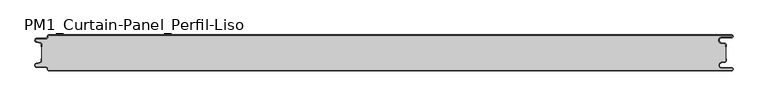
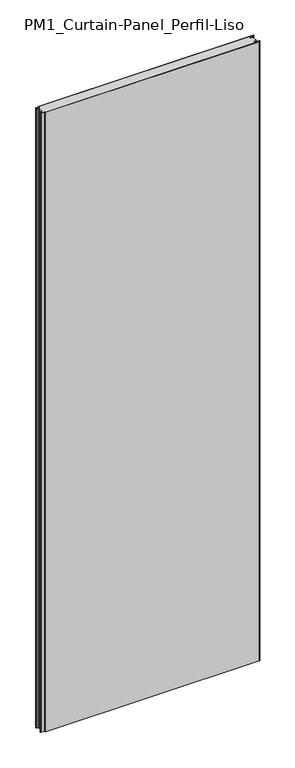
"""IFC4 building model written with IfcOpenShell, lengths in millimetres: plate geometry, PM1_Curtain-Panel_Perfil-Liso : ACH_PM1_Panel-Acústico-Sectorización_60M."""

from ifc_helpers import new_model, si_unit, point, frame, frame_2d, origin, origin_with_axes, place, context, project, spatial, polyline, circle_curve, trimmed, segment, composite_curve, outline, extrude, source, transform, mapped, element, save
from ifc_brep_helpers import plane_surface, cylinder_surface, revolved_surface, advanced_brep


def pm1_curtain_panel_perfil_liso_ec2d9a9f(model_context):
    return source(origin(), model_context, "Body", "SolidModel", [
        advanced_brep(
        [(583.1, 0.0, 3500.0), (-562.4, 0.0, 3500.0), (-564.4, -2.0, 3500.0), (-564.4, -3.4, 3500.0), (-566.4, -5.4, 3500.0), (-581.9, -5.4, 3500.0), (-582.7098239, -12.5077322, 3500.0), (-576.5500979, -13.929817, 3500.0), (-575.0, -15.878557, 3500.0), (-575.0, -20.0, 3500.0), (-574.2, -20.0, 3500.0), (-574.2, -15.878557, 3500.0), (-576.370137, -13.1503208, 3500.0), (-582.529863, -11.728236, 3500.0), (-581.9, -6.2, 3500.0), (-566.4, -6.2, 3500.0), (-563.6, -3.4, 3500.0), (-563.6, -2.0, 3500.0), (-562.4, -0.8, 3500.0), (583.1, -0.8, 3500.0), (583.1, -4.2, 3500.0), (566.1, -4.2, 3500.0), (565.266489, -13.7270773, 3500.0), (571.7125666, -14.8636942, 3500.0), (573.2, -16.636348, 3500.0), (573.2, -20.0, 3500.0), (574.0, -20.0, 3500.0), (574.0, -16.636348, 3500.0), (571.8514851, -14.0758478, 3500.0), (565.4054075, -12.9392309, 3500.0), (566.1, -5.0, 3500.0), (583.1, -5.0, 3500.0), (585.6, -2.5, 3500.0), (-562.4, 0.0, 0.0), (583.1, 0.0, 0.0), (585.6, -2.5, 0.0), (583.1, -5.0, 0.0), (566.1, -5.0, 0.0), (565.4054075, -12.939231, 0.0), (571.8514851, -14.075848, 0.0), (574.0, -16.636348, 0.0), (574.0, -20.0, 0.0), (573.2, -20.0, 0.0), (573.2, -16.636348, 0.0), (571.7125666, -14.863694, 0.0), (565.266489, -13.7270771, 0.0), (566.1, -4.2, 0.0), (583.1, -4.2, 0.0), (583.1, -0.8, 0.0), (-562.4, -0.8, 0.0), (-563.6, -2.0, 0.0), (-563.6, -3.4, 0.0), (-566.4, -6.2, 0.0), (-581.9, -6.2, 0.0), (-582.529863, -11.7282362, 0.0), (-576.370137, -13.150321, 0.0), (-574.2, -15.878557, 0.0), (-574.2, -20.0, 0.0), (-575.0, -20.0, 0.0), (-575.0, -15.878557, 0.0), (-576.5500978, -13.9298169, 0.0), (-582.7098239, -12.507732, 0.0), (-581.9, -5.4, 0.0), (-566.4, -5.4, 0.0), (-564.4, -3.4, 0.0), (-564.4, -2.0, 0.0)],
        [
            (0, 1),
            (1, 2, circle_curve(frame((-562.4, -2.0, 3500.0), z_axis=(0.0, 0.0, 1.0), x_axis=(1.0, 0.0, 0.0)), 2.0)),
            (2, 3),
            (3, 4, circle_curve(frame((-566.4, -3.4, 3500.0), z_axis=(0.0, 0.0, -1.0), x_axis=(1.0, 0.0, 0.0)), 2.0)),
            (4, 5),
            (5, 6, circle_curve(frame((-581.9, -9.0, 3500.0), z_axis=(0.0, 0.0, 1.0), x_axis=(1.0, 0.0, 0.0)), 3.6)),
            (6, 7),
            (7, 8, circle_curve(frame((-577.0, -15.878557, 3500.0), z_axis=(0.0, 0.0, -1.0), x_axis=(1.0, 0.0, 0.0)), 2.0)),
            (8, 9),
            (9, 10),
            (10, 11),
            (11, 12, circle_curve(frame((-577.0, -15.878557, 3500.0), z_axis=(0.0, 0.0, 1.0), x_axis=(1.0, 0.0, 0.0)), 2.8)),
            (12, 13),
            (13, 14, circle_curve(frame((-581.9, -9.0, 3500.0), z_axis=(0.0, 0.0, -1.0), x_axis=(1.0, 0.0, 0.0)), 2.8)),
            (14, 15),
            (15, 16, circle_curve(frame((-566.4, -3.4, 3500.0), z_axis=(0.0, 0.0, 1.0), x_axis=(1.0, 0.0, 0.0)), 2.8)),
            (16, 17),
            (17, 18, circle_curve(frame((-562.4, -2.0, 3500.0), z_axis=(0.0, 0.0, -1.0), x_axis=(1.0, 0.0, 0.0)), 1.2)),
            (18, 19),
            (19, 20, circle_curve(frame((583.1, -2.5, 3500.0), z_axis=(0.0, 0.0, -1.0), x_axis=(1.0, 0.0, 0.0)), 1.7)),
            (20, 21),
            (21, 22, circle_curve(frame((566.1, -9.0, 3500.0), z_axis=(0.0, 0.0, 1.0), x_axis=(1.0, 0.0, 0.0)), 4.8)),
            (22, 23),
            (23, 24, circle_curve(frame((571.4, -16.636348, 3500.0), z_axis=(0.0, 0.0, -1.0), x_axis=(1.0, 0.0, 0.0)), 1.8)),
            (24, 25),
            (25, 26),
            (26, 27),
            (27, 28, circle_curve(frame((571.4, -16.636348, 3500.0), z_axis=(0.0, 0.0, 1.0), x_axis=(1.0, 0.0, 0.0)), 2.6)),
            (28, 29),
            (29, 30, circle_curve(frame((566.1, -9.0, 3500.0), z_axis=(0.0, 0.0, -1.0), x_axis=(1.0, 0.0, 0.0)), 4.0)),
            (30, 31),
            (31, 32, circle_curve(frame((583.1, -2.5, 3500.0), z_axis=(0.0, 0.0, 1.0), x_axis=(1.0, 0.0, 0.0)), 2.5)),
            (32, 0, circle_curve(frame((583.1, -2.5, 3500.0), z_axis=(0.0, 0.0, 1.0), x_axis=(1.0, 0.0, 0.0)), 2.5)),
            (33, 34),
            (34, 35, circle_curve(frame((583.1, -2.5, 0.0), z_axis=(0.0, 0.0, -1.0), x_axis=(1.0, 0.0, 0.0)), 2.5)),
            (35, 36, circle_curve(frame((583.1, -2.5, 0.0), z_axis=(0.0, 0.0, -1.0), x_axis=(1.0, 0.0, 0.0)), 2.5)),
            (36, 37),
            (37, 38, circle_curve(frame((566.1, -9.0, 0.0), z_axis=(0.0, 0.0, 1.0), x_axis=(1.0, 0.0, 0.0)), 4.0)),
            (38, 39),
            (39, 40, circle_curve(frame((571.4, -16.636348, 0.0), z_axis=(0.0, 0.0, -1.0), x_axis=(1.0, 0.0, 0.0)), 2.6)),
            (40, 41),
            (41, 42),
            (42, 43),
            (43, 44, circle_curve(frame((571.4, -16.636348, 0.0), z_axis=(0.0, 0.0, 1.0), x_axis=(1.0, 0.0, 0.0)), 1.8)),
            (44, 45),
            (45, 46, circle_curve(frame((566.1, -9.0, 0.0), z_axis=(0.0, 0.0, -1.0), x_axis=(1.0, 0.0, 0.0)), 4.8)),
            (46, 47),
            (47, 48, circle_curve(frame((583.1, -2.5, 0.0), z_axis=(0.0, 0.0, 1.0), x_axis=(1.0, 0.0, 0.0)), 1.7)),
            (48, 49),
            (49, 50, circle_curve(frame((-562.4, -2.0, 0.0), z_axis=(0.0, 0.0, 1.0), x_axis=(1.0, 0.0, 0.0)), 1.2)),
            (50, 51),
            (51, 52, circle_curve(frame((-566.4, -3.4, 0.0), z_axis=(0.0, 0.0, -1.0), x_axis=(1.0, 0.0, 0.0)), 2.8)),
            (52, 53),
            (53, 54, circle_curve(frame((-581.9, -9.0, 0.0), z_axis=(0.0, 0.0, 1.0), x_axis=(1.0, 0.0, 0.0)), 2.8)),
            (54, 55),
            (55, 56, circle_curve(frame((-577.0, -15.878557, 0.0), z_axis=(0.0, 0.0, -1.0), x_axis=(1.0, 0.0, 0.0)), 2.8)),
            (56, 57),
            (57, 58),
            (58, 59),
            (59, 60, circle_curve(frame((-577.0, -15.878557, 0.0), z_axis=(0.0, 0.0, 1.0), x_axis=(1.0, 0.0, 0.0)), 2.0)),
            (60, 61),
            (61, 62, circle_curve(frame((-581.9, -9.0, 0.0), z_axis=(0.0, 0.0, -1.0), x_axis=(1.0, 0.0, 0.0)), 3.6)),
            (62, 63),
            (63, 64, circle_curve(frame((-566.4, -3.4, 0.0), z_axis=(0.0, 0.0, 1.0), x_axis=(1.0, 0.0, 0.0)), 2.0)),
            (64, 65),
            (65, 33, circle_curve(frame((-562.4, -2.0, 0.0), z_axis=(0.0, 0.0, -1.0), x_axis=(1.0, 0.0, 0.0)), 2.0)),
            (1, 33),
            (65, 2),
            (64, 3),
            (63, 4),
            (62, 5),
            (61, 6),
            (60, 7),
            (59, 8),
            (58, 9),
            (57, 10),
            (56, 11),
            (55, 12),
            (54, 13),
            (53, 14),
            (52, 15),
            (51, 16),
            (50, 17),
            (49, 18),
            (48, 19),
            (47, 20),
            (46, 21),
            (45, 22),
            (44, 23),
            (43, 24),
            (42, 25),
            (41, 26),
            (40, 27),
            (39, 28),
            (38, 29),
            (37, 30),
            (36, 31),
            (34, 0),
        ],
        [
            plane_surface(frame((-575.0, 0.0, 3500.0), z_axis=(0.0, 0.0, 1.0), x_axis=(0.0, 1.0, 0.0))),
            plane_surface(frame((-575.0, 0.0, 0.0), z_axis=(0.0, 0.0, -1.0), x_axis=(0.0, 1.0, 0.0))),
            cylinder_surface(frame((-562.4, -2.0, 3500.0), z_axis=(0.0, 0.0, 1.0), x_axis=(1.0, 0.0, 0.0)), 2.0),
            plane_surface(frame((-564.4, -2.0, 3500.0), z_axis=(-1.0, 0.0, 0.0), x_axis=(0.0, 0.0, -1.0))),
            revolved_surface(polyline([(-564.4, -3.4, 0.0), (-564.4, -3.4, 3500.0)]), (-566.4, -3.4, 3500.0), (0.0, 0.0, -1.0)),
            plane_surface(frame((-566.4, -5.4, 3500.0), z_axis=(0.0, 1.0, 0.0), x_axis=(0.0, 0.0, -1.0))),
            cylinder_surface(frame((-581.9, -9.0, 3500.0), z_axis=(0.0, 0.0, 1.0), x_axis=(1.0, 0.0, 0.0)), 3.6),
            plane_surface(frame((-582.7098239, -12.507732, 3500.0), z_axis=(-0.2249510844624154, -0.9743700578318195, 0.0), x_axis=(0.0, 0.0, -1.0))),
            revolved_surface(polyline([(-575.0, -15.878557, 0.0), (-575.0, -15.878557, 3500.0)]), (-577.0, -15.878557, 3500.0), (0.0, 0.0, -1.0)),
            plane_surface(frame((-575.0, -15.878557, 3500.0), z_axis=(-1.0, 0.0, 0.0), x_axis=(0.0, 0.0, -1.0))),
            plane_surface(frame((-575.0, -20.0, 3500.0), z_axis=(0.0, -1.0, 0.0), x_axis=(0.0, 0.0, -1.0))),
            plane_surface(frame((-574.2, -20.0, 3500.0), z_axis=(1.0, 0.0, 0.0), x_axis=(0.0, 0.0, -1.0))),
            cylinder_surface(frame((-577.0, -15.878557, 3500.0), z_axis=(0.0, 0.0, 1.0), x_axis=(1.0, 0.0, 0.0)), 2.8),
            plane_surface(frame((-576.370137, -13.150321, 3500.0), z_axis=(0.22495108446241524, 0.9743700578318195, 0.0), x_axis=(0.0, 0.0, -1.0))),
            revolved_surface(polyline([(-579.1, -9.0, 0.0), (-579.1, -9.0, 3500.0)]), (-581.9, -9.0, 3500.0), (0.0, 0.0, -1.0)),
            plane_surface(frame((-581.9, -6.2, 3500.0), z_axis=(0.0, -1.0, 0.0), x_axis=(0.0, 0.0, -1.0))),
            cylinder_surface(frame((-566.4, -3.4, 3500.0), z_axis=(0.0, 0.0, 1.0), x_axis=(1.0, 0.0, 0.0)), 2.8),
            plane_surface(frame((-563.6, -3.4, 3500.0), z_axis=(1.0, 0.0, 0.0), x_axis=(0.0, 0.0, -1.0))),
            revolved_surface(polyline([(-561.1999999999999, -2.0, 0.0), (-561.1999999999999, -2.0, 3500.0)]), (-562.4, -2.0, 3500.0), (0.0, 0.0, -1.0)),
            plane_surface(frame((560.890897, -0.8, 3500.0), z_axis=(0.0, -1.0, 0.0), x_axis=(0.0, 0.0, -1.0))),
            revolved_surface(polyline([(584.8000000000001, -2.5, 0.0), (584.8000000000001, -2.5, 3500.0)]), (583.1, -2.5, 3500.0), (0.0, 0.0, -1.0)),
            plane_surface(frame((583.1, -4.2, 3500.0), z_axis=(0.0, 1.0, 0.0), x_axis=(0.0, 0.0, -1.0))),
            cylinder_surface(frame((566.1, -9.0, 3500.0), z_axis=(0.0, 0.0, 1.0), x_axis=(1.0, 0.0, 0.0)), 4.8),
            plane_surface(frame((565.266489, -13.7270771, 3500.0), z_axis=(-0.1736481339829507, -0.9848077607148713, 0.0), x_axis=(0.0, 0.0, -1.0))),
            revolved_surface(polyline([(573.1999999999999, -16.636348, 0.0), (573.1999999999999, -16.636348, 3500.0)]), (571.4, -16.636348, 3500.0), (0.0, 0.0, -1.0)),
            plane_surface(frame((573.2, -16.636348, 3500.0), z_axis=(-1.0, 0.0, 0.0), x_axis=(0.0, 0.0, -1.0))),
            plane_surface(frame((573.2, -20.0, 3500.0), z_axis=(0.0, -1.0, 0.0), x_axis=(0.0, 0.0, -1.0))),
            plane_surface(frame((574.0, -20.0, 3500.0), z_axis=(1.0, 0.0, 0.0), x_axis=(0.0, 0.0, -1.0))),
            cylinder_surface(frame((571.4, -16.636348, 3500.0), z_axis=(0.0, 0.0, 1.0), x_axis=(1.0, 0.0, 0.0)), 2.6),
            plane_surface(frame((571.8514851, -14.075848, 3500.0), z_axis=(0.17364813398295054, 0.9848077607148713, 0.0), x_axis=(0.0, 0.0, -1.0))),
            revolved_surface(polyline([(570.1, -9.0, 0.0), (570.1, -9.0, 3500.0)]), (566.1, -9.0, 3500.0), (0.0, 0.0, -1.0)),
            plane_surface(frame((566.1, -5.0, 3500.0), z_axis=(0.0, -1.0, 0.0), x_axis=(0.0, 0.0, -1.0))),
            cylinder_surface(frame((583.1, -2.5, 3500.0), z_axis=(0.0, 0.0, 1.0), x_axis=(1.0, 0.0, 0.0)), 2.5),
            plane_surface(frame((510.5961529, 0.0, 3500.0), z_axis=(0.0, 1.0, 0.0), x_axis=(0.0, 0.0, -1.0))),
        ],
        [
            (0, [[1, 2, 3, 4, 5, 6, 7, 8, 9, 10, 11, 12, 13, 14, 15, 16, 17, 18, 19, 20, 21, 22, 23, 24, 25, 26, 27, 28, 29, 30, 31, 32, 33]]),
            (1, [[34, 35, 36, 37, 38, 39, 40, 41, 42, 43, 44, 45, 46, 47, 48, 49, 50, 51, 52, 53, 54, 55, 56, 57, 58, 59, 60, 61, 62, 63, 64, 65, 66]]),
            (2, [[-2, 67, -66, 68]]),
            (3, [[-3, -68, -65, 69]]),
            (4, [[-4, -69, -64, 70]]),
            (5, [[-5, -70, -63, 71]]),
            (6, [[-6, -71, -62, 72]]),
            (7, [[-7, -72, -61, 73]]),
            (8, [[-8, -73, -60, 74]]),
            (9, [[-9, -74, -59, 75]]),
            (10, [[-10, -75, -58, 76]]),
            (11, [[-11, -76, -57, 77]]),
            (12, [[-12, -77, -56, 78]]),
            (13, [[-13, -78, -55, 79]]),
            (14, [[-14, -79, -54, 80]]),
            (15, [[-15, -80, -53, 81]]),
            (16, [[-16, -81, -52, 82]]),
            (17, [[-17, -82, -51, 83]]),
            (18, [[-18, -83, -50, 84]]),
            (19, [[-19, -84, -49, 85]]),
            (20, [[-20, -85, -48, 86]]),
            (21, [[-21, -86, -47, 87]]),
            (22, [[-22, -87, -46, 88]]),
            (23, [[-23, -88, -45, 89]]),
            (24, [[-24, -89, -44, 90]]),
            (25, [[-25, -90, -43, 91]]),
            (26, [[-26, -91, -42, 92]]),
            (27, [[-27, -92, -41, 93]]),
            (28, [[-28, -93, -40, 94]]),
            (29, [[-29, -94, -39, 95]]),
            (30, [[-30, -95, -38, 96]]),
            (31, [[-31, -96, -37, 97]]),
            (32, [[-97, -36, -35, 98, -33, -32]]),
            (33, [[-1, -98, -34, -67]]),
        ],
    ),
        extrude(outline(composite_curve([segment(polyline([(-574.2, -44.1214426), (-574.2, -15.8785573)]), True, "CONTINUOUS"), segment(trimmed(circle_curve(frame_2d((-577.0, -15.8785573)), 2.8), [point((-574.2, -15.8785573))], [point((-576.370137, -13.1503212))], True, "CARTESIAN"), True, "CONTINUOUS"), segment(polyline([(-576.370137, -13.1503212), (-582.5298631, -11.7282362)]), True, "CONTINUOUS"), segment(trimmed(circle_curve(frame_2d((-581.9, -9.0)), 2.8), [point((-582.5298631, -11.7282362))], [point((-581.9, -6.2))], False, "CARTESIAN"), True, "CONTINUOUS"), segment(polyline([(-581.9, -6.2), (-566.4000001, -6.2)]), True, "CONTINUOUS"), segment(trimmed(circle_curve(frame_2d((-566.4000001, -3.4)), 2.8), [point((-566.4000001, -6.2))], [point((-563.6000001, -3.4))], True, "CARTESIAN"), True, "CONTINUOUS"), segment(polyline([(-563.6000001, -3.4), (-563.6000001, -2.0)]), True, "CONTINUOUS"), segment(trimmed(circle_curve(frame_2d((-562.4000001, -2.0)), 1.2), [point((-563.6000001, -2.0))], [point((-562.4000001, -0.8))], False, "CARTESIAN"), True, "CONTINUOUS"), segment(polyline([(-562.4000001, -0.8), (583.1, -0.8)]), True, "CONTINUOUS"), segment(trimmed(circle_curve(frame_2d((583.1, -2.5)), 1.7), [point((583.1, -0.8))], [point((583.1, -4.2))], False, "CARTESIAN"), True, "CONTINUOUS"), segment(polyline([(583.1, -4.2), (566.1, -4.2)]), True, "CONTINUOUS"), segment(trimmed(circle_curve(frame_2d((566.1, -9.0)), 4.8), [point((566.1, -4.2))], [point((565.2664883, -13.7270771))], True, "CARTESIAN"), True, "CONTINUOUS"), segment(polyline([(565.2664883, -13.7270771), (571.7125668, -14.8636953)]), True, "CONTINUOUS"), segment(trimmed(circle_curve(frame_2d((571.4, -16.6363492)), 1.8), [point((571.7125668, -14.8636953))], [point((573.2, -16.6363492))], False, "CARTESIAN"), True, "CONTINUOUS"), segment(polyline([(573.2, -16.6363492), (573.2, -43.3636508)]), True, "CONTINUOUS"), segment(trimmed(circle_curve(frame_2d((571.4, -43.3636508)), 1.8), [point((573.2, -43.3636508))], [point((571.7125668, -45.1363047))], False, "CARTESIAN"), True, "CONTINUOUS"), segment(polyline([(571.7125668, -45.1363047), (565.2664883, -46.2729229)]), True, "CONTINUOUS"), segment(trimmed(circle_curve(frame_2d((566.1, -51.0)), 4.8), [point((565.2664883, -46.2729229))], [point((566.1, -55.8))], True, "CARTESIAN"), True, "CONTINUOUS"), segment(polyline([(566.1, -55.8), (583.1, -55.8)]), True, "CONTINUOUS"), segment(trimmed(circle_curve(frame_2d((583.1, -57.5)), 1.7), [point((583.1, -55.8))], [point((583.1, -59.2))], False, "CARTESIAN"), True, "CONTINUOUS"), segment(polyline([(583.1, -59.2), (-562.4000001, -59.2)]), True, "CONTINUOUS"), segment(trimmed(circle_curve(frame_2d((-562.4000001, -58.0)), 1.2), [point((-562.4000001, -59.2))], [point((-563.6000001, -58.0))], False, "CARTESIAN"), True, "CONTINUOUS"), segment(polyline([(-563.6000001, -58.0), (-563.6000001, -56.6)]), True, "CONTINUOUS"), segment(trimmed(circle_curve(frame_2d((-566.4000001, -56.6)), 2.8), [point((-563.6000001, -56.6))], [point((-566.4000001, -53.8))], True, "CARTESIAN"), True, "CONTINUOUS"), segment(polyline([(-566.4000001, -53.8), (-581.9, -53.8)]), True, "CONTINUOUS"), segment(trimmed(circle_curve(frame_2d((-581.9, -51.0)), 2.8), [point((-581.9, -53.8))], [point((-582.5298631, -48.2717638))], False, "CARTESIAN"), True, "CONTINUOUS"), segment(polyline([(-582.5298631, -48.2717638), (-576.370137, -46.8496788)]), True, "CONTINUOUS"), segment(trimmed(circle_curve(frame_2d((-577.0, -44.1214426)), 2.8), [point((-576.370137, -46.8496788))], [point((-574.2, -44.1214426))], True, "CARTESIAN"), True, "CONTINUOUS")], self_intersect=False)), origin_with_axes(), (0.0, 0.0, 1.0), 3500.0),
        advanced_brep(
        [(-562.4, -60.0, 3500.0), (583.1, -60.0, 3500.0), (585.6, -57.5, 3500.0), (583.1, -55.0, 3500.0), (566.1, -55.0, 3500.0), (565.4054075, -47.060769, 3500.0), (571.8514851, -45.924152, 3500.0), (574.0, -43.363652, 3500.0), (574.0, -40.0, 3500.0), (573.2, -40.0, 3500.0), (573.2, -43.363652, 3500.0), (571.7125666, -45.136306, 3500.0), (565.266489, -46.2729229, 3500.0), (566.1, -55.8, 3500.0), (583.1, -55.8, 3500.0), (583.1, -59.2, 3500.0), (-562.4, -59.2, 3500.0), (-563.6, -58.0, 3500.0), (-563.6, -56.6, 3500.0), (-566.4, -53.8, 3500.0), (-581.9, -53.8, 3500.0), (-582.529863, -48.2717638, 3500.0), (-576.370137, -46.849679, 3500.0), (-574.2, -44.121443, 3500.0), (-574.2, -40.0, 3500.0), (-575.0, -40.0, 3500.0), (-575.0, -44.121443, 3500.0), (-576.5500978, -46.0701831, 3500.0), (-582.7098239, -47.492268, 3500.0), (-581.9, -54.6, 3500.0), (-566.4, -54.6, 3500.0), (-564.4, -56.6, 3500.0), (-564.4, -58.0, 3500.0), (583.1, -60.0, 0.0), (-562.4, -60.0, 0.0), (-564.4, -58.0, 0.0), (-564.4, -56.6, 0.0), (-566.4, -54.6, 0.0), (-581.9, -54.6, 0.0), (-582.7098239, -47.4922678, 0.0), (-576.5500979, -46.070183, 0.0), (-575.0, -44.121443, 0.0), (-575.0, -40.0, 0.0), (-574.2, -40.0, 0.0), (-574.2, -44.121443, 0.0), (-576.370137, -46.8496792, 0.0), (-582.529863, -48.271764, 0.0), (-581.9, -53.8, 0.0), (-566.4, -53.8, 0.0), (-563.6, -56.6, 0.0), (-563.6, -58.0, 0.0), (-562.4, -59.2, 0.0), (583.1, -59.2, 0.0), (583.1, -55.8, 0.0), (566.1, -55.8, 0.0), (565.266489, -46.2729227, 0.0), (571.7125666, -45.1363058, 0.0), (573.2, -43.363652, 0.0), (573.2, -40.0, 0.0), (574.0, -40.0, 0.0), (574.0, -43.363652, 0.0), (571.8514851, -45.9241522, 0.0), (565.4054075, -47.0607691, 0.0), (566.1, -55.0, 0.0), (583.1, -55.0, 0.0), (585.6, -57.5, 0.0)],
        [
            (0, 1),
            (1, 2, circle_curve(frame((583.1, -57.5, 3500.0), z_axis=(0.0, 0.0, 1.0), x_axis=(1.0, 0.0, 0.0)), 2.5)),
            (2, 3, circle_curve(frame((583.1, -57.5, 3500.0), z_axis=(0.0, 0.0, 1.0), x_axis=(1.0, 0.0, 0.0)), 2.5)),
            (3, 4),
            (4, 5, circle_curve(frame((566.1, -51.0, 3500.0), z_axis=(0.0, 0.0, -1.0), x_axis=(1.0, 0.0, 0.0)), 4.0)),
            (5, 6),
            (6, 7, circle_curve(frame((571.4, -43.363652, 3500.0), z_axis=(0.0, 0.0, 1.0), x_axis=(1.0, 0.0, 0.0)), 2.6)),
            (7, 8),
            (8, 9),
            (9, 10),
            (10, 11, circle_curve(frame((571.4, -43.363652, 3500.0), z_axis=(0.0, 0.0, -1.0), x_axis=(1.0, 0.0, 0.0)), 1.8)),
            (11, 12),
            (12, 13, circle_curve(frame((566.1, -51.0, 3500.0), z_axis=(0.0, 0.0, 1.0), x_axis=(1.0, 0.0, 0.0)), 4.8)),
            (13, 14),
            (14, 15, circle_curve(frame((583.1, -57.5, 3500.0), z_axis=(0.0, 0.0, -1.0), x_axis=(1.0, 0.0, 0.0)), 1.7)),
            (15, 16),
            (16, 17, circle_curve(frame((-562.4, -58.0, 3500.0), z_axis=(0.0, 0.0, -1.0), x_axis=(1.0, 0.0, 0.0)), 1.2)),
            (17, 18),
            (18, 19, circle_curve(frame((-566.4, -56.6, 3500.0), z_axis=(0.0, 0.0, 1.0), x_axis=(1.0, 0.0, 0.0)), 2.8)),
            (19, 20),
            (20, 21, circle_curve(frame((-581.9, -51.0, 3500.0), z_axis=(0.0, 0.0, -1.0), x_axis=(1.0, 0.0, 0.0)), 2.8)),
            (21, 22),
            (22, 23, circle_curve(frame((-577.0, -44.121443, 3500.0), z_axis=(0.0, 0.0, 1.0), x_axis=(1.0, 0.0, 0.0)), 2.8)),
            (23, 24),
            (24, 25),
            (25, 26),
            (26, 27, circle_curve(frame((-577.0, -44.121443, 3500.0), z_axis=(0.0, 0.0, -1.0), x_axis=(1.0, 0.0, 0.0)), 2.0)),
            (27, 28),
            (28, 29, circle_curve(frame((-581.9, -51.0, 3500.0), z_axis=(0.0, 0.0, 1.0), x_axis=(1.0, 0.0, 0.0)), 3.6)),
            (29, 30),
            (30, 31, circle_curve(frame((-566.4, -56.6, 3500.0), z_axis=(0.0, 0.0, -1.0), x_axis=(1.0, 0.0, 0.0)), 2.0)),
            (31, 32),
            (32, 0, circle_curve(frame((-562.4, -58.0, 3500.0), z_axis=(0.0, 0.0, 1.0), x_axis=(1.0, 0.0, 0.0)), 2.0)),
            (33, 34),
            (34, 35, circle_curve(frame((-562.4, -58.0, 0.0), z_axis=(0.0, 0.0, -1.0), x_axis=(1.0, 0.0, 0.0)), 2.0)),
            (35, 36),
            (36, 37, circle_curve(frame((-566.4, -56.6, 0.0), z_axis=(0.0, 0.0, 1.0), x_axis=(1.0, 0.0, 0.0)), 2.0)),
            (37, 38),
            (38, 39, circle_curve(frame((-581.9, -51.0, 0.0), z_axis=(0.0, 0.0, -1.0), x_axis=(1.0, 0.0, 0.0)), 3.6)),
            (39, 40),
            (40, 41, circle_curve(frame((-577.0, -44.121443, 0.0), z_axis=(0.0, 0.0, 1.0), x_axis=(1.0, 0.0, 0.0)), 2.0)),
            (41, 42),
            (42, 43),
            (43, 44),
            (44, 45, circle_curve(frame((-577.0, -44.121443, 0.0), z_axis=(0.0, 0.0, -1.0), x_axis=(1.0, 0.0, 0.0)), 2.8)),
            (45, 46),
            (46, 47, circle_curve(frame((-581.9, -51.0, 0.0), z_axis=(0.0, 0.0, 1.0), x_axis=(1.0, 0.0, 0.0)), 2.8)),
            (47, 48),
            (48, 49, circle_curve(frame((-566.4, -56.6, 0.0), z_axis=(0.0, 0.0, -1.0), x_axis=(1.0, 0.0, 0.0)), 2.8)),
            (49, 50),
            (50, 51, circle_curve(frame((-562.4, -58.0, 0.0), z_axis=(0.0, 0.0, 1.0), x_axis=(1.0, 0.0, 0.0)), 1.2)),
            (51, 52),
            (52, 53, circle_curve(frame((583.1, -57.5, 0.0), z_axis=(0.0, 0.0, 1.0), x_axis=(1.0, 0.0, 0.0)), 1.7)),
            (53, 54),
            (54, 55, circle_curve(frame((566.1, -51.0, 0.0), z_axis=(0.0, 0.0, -1.0), x_axis=(1.0, 0.0, 0.0)), 4.8)),
            (55, 56),
            (56, 57, circle_curve(frame((571.4, -43.363652, 0.0), z_axis=(0.0, 0.0, 1.0), x_axis=(1.0, 0.0, 0.0)), 1.8)),
            (57, 58),
            (58, 59),
            (59, 60),
            (60, 61, circle_curve(frame((571.4, -43.363652, 0.0), z_axis=(0.0, 0.0, -1.0), x_axis=(1.0, 0.0, 0.0)), 2.6)),
            (61, 62),
            (62, 63, circle_curve(frame((566.1, -51.0, 0.0), z_axis=(0.0, 0.0, 1.0), x_axis=(1.0, 0.0, 0.0)), 4.0)),
            (63, 64),
            (64, 65, circle_curve(frame((583.1, -57.5, 0.0), z_axis=(0.0, 0.0, -1.0), x_axis=(1.0, 0.0, 0.0)), 2.5)),
            (65, 33, circle_curve(frame((583.1, -57.5, 0.0), z_axis=(0.0, 0.0, -1.0), x_axis=(1.0, 0.0, 0.0)), 2.5)),
            (0, 34),
            (33, 1),
            (64, 3),
            (63, 4),
            (62, 5),
            (61, 6),
            (60, 7),
            (59, 8),
            (58, 9),
            (57, 10),
            (56, 11),
            (55, 12),
            (54, 13),
            (53, 14),
            (52, 15),
            (51, 16),
            (50, 17),
            (49, 18),
            (48, 19),
            (47, 20),
            (46, 21),
            (45, 22),
            (44, 23),
            (43, 24),
            (42, 25),
            (41, 26),
            (40, 27),
            (39, 28),
            (38, 29),
            (37, 30),
            (36, 31),
            (35, 32),
        ],
        [
            plane_surface(frame((-575.0, -60.0, 3500.0), z_axis=(0.0, 0.0, 1.0), x_axis=(0.0, 1.0, 0.0))),
            plane_surface(frame((-575.0, -60.0, 0.0), z_axis=(0.0, 0.0, -1.0), x_axis=(0.0, 1.0, 0.0))),
            plane_surface(frame((560.890897, -60.0, 3500.0), z_axis=(0.0, -1.0, 0.0), x_axis=(0.0, 0.0, -1.0))),
            cylinder_surface(frame((583.1, -57.5, 3500.0), z_axis=(0.0, 0.0, 1.0), x_axis=(1.0, 0.0, 0.0)), 2.5),
            plane_surface(frame((583.1, -55.0, 3500.0), z_axis=(0.0, 1.0, 0.0), x_axis=(0.0, 0.0, -1.0))),
            revolved_surface(polyline([(570.1, -51.0, 0.0), (570.1, -51.0, 3500.0)]), (566.1, -51.0, 3500.0), (0.0, 0.0, -1.0)),
            plane_surface(frame((565.4054075, -47.0607691, 3500.0), z_axis=(0.17364813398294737, -0.9848077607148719, 0.0), x_axis=(0.0, 0.0, -1.0))),
            cylinder_surface(frame((571.4, -43.363652, 3500.0), z_axis=(0.0, 0.0, 1.0), x_axis=(1.0, 0.0, 0.0)), 2.6),
            plane_surface(frame((574.0, -43.363652, 3500.0), z_axis=(1.0, 0.0, 0.0), x_axis=(0.0, 0.0, -1.0))),
            plane_surface(frame((574.0, -40.0, 3500.0), z_axis=(0.0, 1.0, 0.0), x_axis=(0.0, 0.0, -1.0))),
            plane_surface(frame((573.2, -40.0, 3500.0), z_axis=(-1.0, 0.0, 0.0), x_axis=(0.0, 0.0, -1.0))),
            revolved_surface(polyline([(573.1999999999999, -43.363652, 0.0), (573.1999999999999, -43.363652, 3500.0)]), (571.4, -43.363652, 3500.0), (0.0, 0.0, -1.0)),
            plane_surface(frame((571.7125666, -45.1363058, 3500.0), z_axis=(-0.17364813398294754, 0.9848077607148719, 0.0), x_axis=(0.0, 0.0, -1.0))),
            cylinder_surface(frame((566.1, -51.0, 3500.0), z_axis=(0.0, 0.0, 1.0), x_axis=(1.0, 0.0, 0.0)), 4.8),
            plane_surface(frame((566.1, -55.8, 3500.0), z_axis=(0.0, -1.0, 0.0), x_axis=(0.0, 0.0, -1.0))),
            revolved_surface(polyline([(584.8000000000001, -57.5, 0.0), (584.8000000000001, -57.5, 3500.0)]), (583.1, -57.5, 3500.0), (0.0, 0.0, -1.0)),
            plane_surface(frame((510.8105122, -59.2, 3500.0), z_axis=(0.0, 1.0, 0.0), x_axis=(0.0, 0.0, -1.0))),
            revolved_surface(polyline([(-561.1999999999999, -58.0, 0.0), (-561.1999999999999, -58.0, 3500.0)]), (-562.4, -58.0, 3500.0), (0.0, 0.0, -1.0)),
            plane_surface(frame((-563.6, -58.0, 3500.0), z_axis=(1.0, 0.0, 0.0), x_axis=(0.0, 0.0, -1.0))),
            cylinder_surface(frame((-566.4, -56.6, 3500.0), z_axis=(0.0, 0.0, 1.0), x_axis=(1.0, 0.0, 0.0)), 2.8),
            plane_surface(frame((-566.4, -53.8, 3500.0), z_axis=(0.0, 1.0, 0.0), x_axis=(0.0, 0.0, -1.0))),
            revolved_surface(polyline([(-579.1, -51.0, 0.0), (-579.1, -51.0, 3500.0)]), (-581.9, -51.0, 3500.0), (0.0, 0.0, -1.0)),
            plane_surface(frame((-582.529863, -48.271764, 3500.0), z_axis=(0.2249510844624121, -0.9743700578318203, 0.0), x_axis=(0.0, 0.0, -1.0))),
            cylinder_surface(frame((-577.0, -44.121443, 3500.0), z_axis=(0.0, 0.0, 1.0), x_axis=(1.0, 0.0, 0.0)), 2.8),
            plane_surface(frame((-574.2, -44.121443, 3500.0), z_axis=(1.0, 0.0, 0.0), x_axis=(0.0, 0.0, -1.0))),
            plane_surface(frame((-574.2, -40.0, 3500.0), z_axis=(0.0, 1.0, 0.0), x_axis=(0.0, 0.0, -1.0))),
            plane_surface(frame((-575.0, -40.0, 3500.0), z_axis=(-1.0, 0.0, 0.0), x_axis=(0.0, 0.0, -1.0))),
            revolved_surface(polyline([(-575.0, -44.121443, 0.0), (-575.0, -44.121443, 3500.0)]), (-577.0, -44.121443, 3500.0), (0.0, 0.0, -1.0)),
            plane_surface(frame((-576.5500979, -46.070183, 3500.0), z_axis=(-0.22495108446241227, 0.9743700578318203, 0.0), x_axis=(0.0, 0.0, -1.0))),
            cylinder_surface(frame((-581.9, -51.0, 3500.0), z_axis=(0.0, 0.0, 1.0), x_axis=(1.0, 0.0, 0.0)), 3.6),
            plane_surface(frame((-581.9, -54.6, 3500.0), z_axis=(0.0, -1.0, 0.0), x_axis=(0.0, 0.0, -1.0))),
            revolved_surface(polyline([(-564.4, -56.6, 0.0), (-564.4, -56.6, 3500.0)]), (-566.4, -56.6, 3500.0), (0.0, 0.0, -1.0)),
            plane_surface(frame((-564.4, -56.6, 3500.0), z_axis=(-1.0, 0.0, 0.0), x_axis=(0.0, 0.0, -1.0))),
            cylinder_surface(frame((-562.4, -58.0, 3500.0), z_axis=(0.0, 0.0, 1.0), x_axis=(1.0, 0.0, 0.0)), 2.0),
        ],
        [
            (0, [[1, 2, 3, 4, 5, 6, 7, 8, 9, 10, 11, 12, 13, 14, 15, 16, 17, 18, 19, 20, 21, 22, 23, 24, 25, 26, 27, 28, 29, 30, 31, 32, 33]]),
            (1, [[34, 35, 36, 37, 38, 39, 40, 41, 42, 43, 44, 45, 46, 47, 48, 49, 50, 51, 52, 53, 54, 55, 56, 57, 58, 59, 60, 61, 62, 63, 64, 65, 66]]),
            (2, [[-1, 67, -34, 68]]),
            (3, [[-68, -66, -65, 69, -3, -2]]),
            (4, [[-4, -69, -64, 70]]),
            (5, [[-5, -70, -63, 71]]),
            (6, [[-6, -71, -62, 72]]),
            (7, [[-7, -72, -61, 73]]),
            (8, [[-8, -73, -60, 74]]),
            (9, [[-9, -74, -59, 75]]),
            (10, [[-10, -75, -58, 76]]),
            (11, [[-11, -76, -57, 77]]),
            (12, [[-12, -77, -56, 78]]),
            (13, [[-13, -78, -55, 79]]),
            (14, [[-14, -79, -54, 80]]),
            (15, [[-15, -80, -53, 81]]),
            (16, [[-16, -81, -52, 82]]),
            (17, [[-17, -82, -51, 83]]),
            (18, [[-18, -83, -50, 84]]),
            (19, [[-19, -84, -49, 85]]),
            (20, [[-20, -85, -48, 86]]),
            (21, [[-21, -86, -47, 87]]),
            (22, [[-22, -87, -46, 88]]),
            (23, [[-23, -88, -45, 89]]),
            (24, [[-24, -89, -44, 90]]),
            (25, [[-25, -90, -43, 91]]),
            (26, [[-26, -91, -42, 92]]),
            (27, [[-27, -92, -41, 93]]),
            (28, [[-28, -93, -40, 94]]),
            (29, [[-29, -94, -39, 95]]),
            (30, [[-30, -95, -38, 96]]),
            (31, [[-31, -96, -37, 97]]),
            (32, [[-32, -97, -36, 98]]),
            (33, [[-33, -98, -35, -67]]),
        ],
    ),
    ])


if __name__ == "__main__":
    model = new_model("IFC4")
    model_context = context("Model", 3, world=origin())
    ifc_project = project(units=[si_unit("LENGTHUNIT", "METRE", prefix="MILLI")], contexts=[model_context])
    site = spatial("IfcSite", under=ifc_project)
    building = spatial("IfcBuilding", under=site)
    placement = place(None, origin())
    pm1_curtain_panel_perfil_liso_shape = pm1_curtain_panel_perfil_liso_ec2d9a9f(model_context)
    element("IfcPlate", 1, ObjectType="PM1_Curtain-Panel_Perfil-Liso : ACH_PM1_Panel-Acústico-Sectorización_60M", at=placement, inside=building, context=model_context, shape_type="MappedRepresentation", body=[
        mapped(pm1_curtain_panel_perfil_liso_shape, transform((0.0, 0.0, 0.0), x_axis=(1.0, 0.0, 0.0), y_axis=(0.0, 1.0, 0.0), z_axis=(0.0, 0.0, 1.0))),
    ])
    save(model, "model.ifc")
